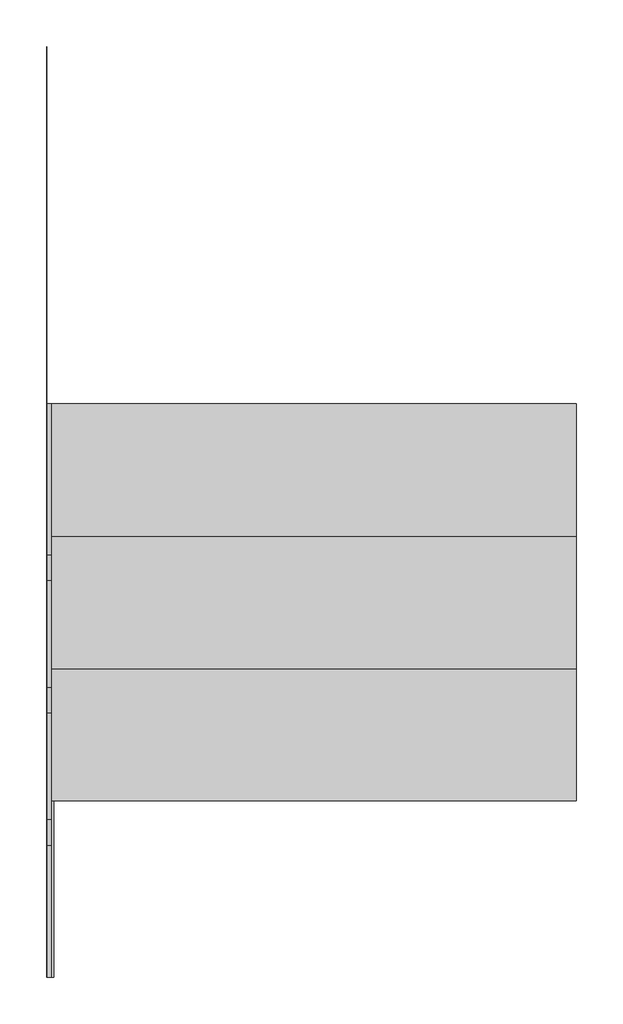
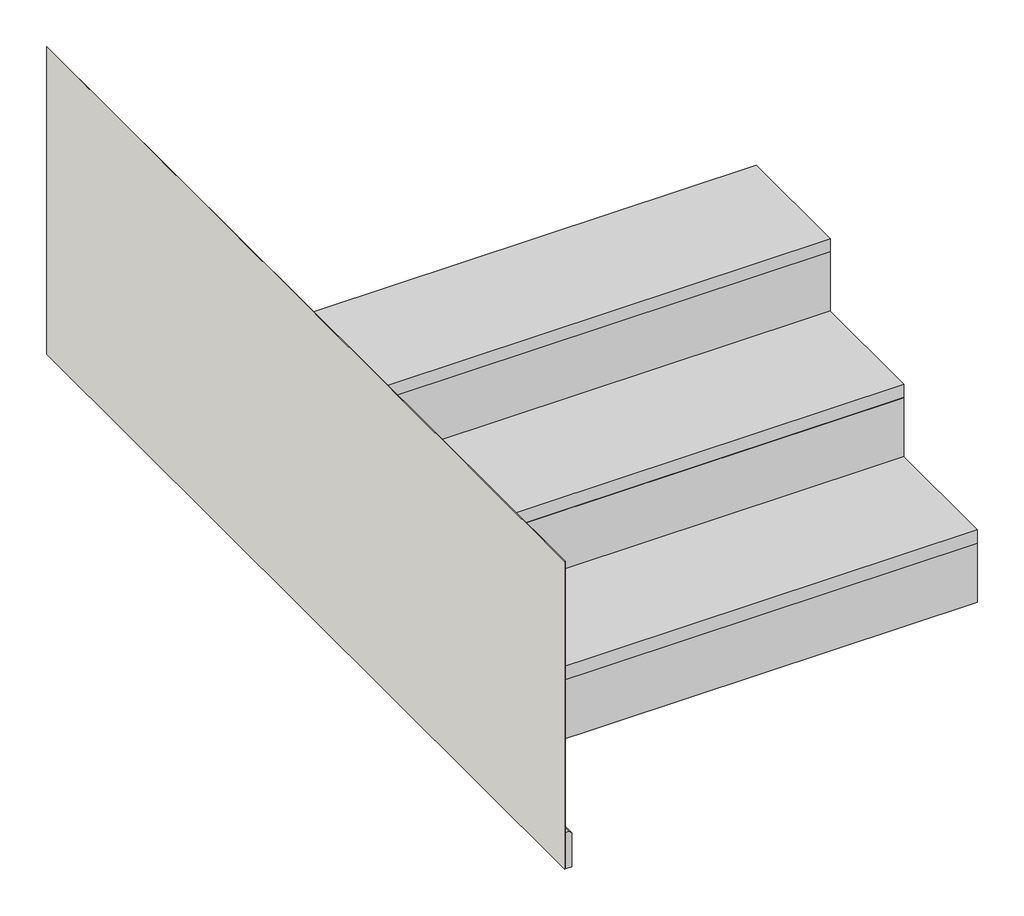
# One storey: 4 proxies, 1 stair flight, 1 wall.
"""IFC4 building model written with IfcOpenShell, lengths in millimetres."""

from ifc_helpers import new_model, si_unit, frame, origin, place, context, project, spatial, polyline, outline, extrude, faceted_brep, transform, mapped, element, save
from components import generic_models_5bab8272

model = new_model("IFC4")

# Units and contexts
model_context = context("Model", 3, world=origin())
ifc_project = project(units=[si_unit("LENGTHUNIT", "METRE", prefix="MILLI")], contexts=[model_context])

# Site, building, storey
site = spatial("IfcSite", under=ifc_project)
building = spatial("IfcBuilding", under=site)
storey = spatial("IfcBuildingStorey", under=building, Name="- EXAGRES_Catalogo ESCALERAS", Elevation=10000.0)

# Proxies
placement = place(None, origin())
element("IfcBuildingElementProxy", 1, Name="Exagres_Milan_Arena_Skirting_9x60", ObjectType="Exagres_Milan_Arena_Skirting_9x60", at=placement, inside=storey, context=model_context, shape_type="SweptSolid", body=[
    extrude(outline(polyline([(10090.0, -451.9029047), (10000.0, -451.9029047), (10000.0, -436.9029047), (10085.0, -436.9029047), (10090.0, -441.9029047), (10090.0, -451.9029047)])), frame((0.0, -15678.6587674, 0.0), z_axis=(0.0, 1.0, 0.0), x_axis=(0.0, 0.0, 1.0)), (0.0, 0.0, 1.0), 400.0),
])
generic_models_shape = generic_models_5bab8272(model_context)
element("IfcBuildingElementProxy", 2, Name="EXAGRES - Step Skirting Straight 42.3x17.5 : Exagres_Milan_Arena_Left", ObjectType="EXAGRES - Step Skirting Straight 42.3x17.5 : Exagres_Milan_Arena_Left", at=placement, inside=storey, context=model_context, shape_type="MappedRepresentation", body=[
    mapped(generic_models_shape, transform((-451.9029047, -15278.6587674, 10180.0), x_axis=(0.0, 1.0, 0.0), y_axis=(0.0, 0.0, 1.0), z_axis=(1.0, 0.0, 0.0))),
])
element("IfcBuildingElementProxy", 3, Name="EXAGRES - Step Skirting Straight 42.3x17.5 : Exagres_Milan_Arena_Left", ObjectType="EXAGRES - Step Skirting Straight 42.3x17.5 : Exagres_Milan_Arena_Left", at=placement, inside=storey, context=model_context, shape_type="MappedRepresentation", body=[
    mapped(generic_models_shape, transform((-451.9029047, -14978.6587674, 10360.0), x_axis=(0.0, 1.0, 0.0), y_axis=(0.0, 0.0, 1.0), z_axis=(1.0, 0.0, 0.0))),
])
element("IfcBuildingElementProxy", 4, Name="EXAGRES - Step Skirting Straight 42.3x17.5 : Exagres_Milan_Arena_Left", ObjectType="EXAGRES - Step Skirting Straight 42.3x17.5 : Exagres_Milan_Arena_Left", at=placement, inside=storey, context=model_context, shape_type="MappedRepresentation", body=[
    mapped(generic_models_shape, transform((-451.9029047, -14678.6587674, 10540.0), x_axis=(0.0, 1.0, 0.0), y_axis=(0.0, 0.0, 1.0), z_axis=(1.0, 0.0, 0.0))),
])

# Stair flight
element("IfcStairFlight", 5, ObjectType="EXAGRES_Straight - Milán Arena R11+C", at=placement, inside=storey, context=model_context, shape_type="SolidModel", body=[
    faceted_brep([(-451.9029047, -14965.6587674, 10165.0), (-451.9029047, -15265.6587674, 10165.0), (748.0970953, -15265.6587674, 10165.0), (748.0970953, -14965.6587674, 10165.0), (-451.9029047, -14965.6587674, 10000.0), (-451.9029047, -15265.6587674, 10000.0), (748.0970953, -15265.6587674, 10000.0), (748.0970953, -14965.6587674, 10000.0), (-451.9029047, -14665.6587674, 10345.0), (-451.9029047, -14965.6587674, 10345.0), (748.0970953, -14965.6587674, 10345.0), (748.0970953, -14665.6587674, 10345.0), (-451.9029047, -14665.6587674, 10158.4095394), (-451.9029047, -14929.6746663, 10000.0), (748.0970953, -14929.6746663, 10000.0), (748.0970953, -14665.6587674, 10158.4095394), (-451.9029047, -14378.6587674, 10330.6095394), (748.0970953, -14378.6587674, 10330.6095394), (-451.9029047, -14378.6587674, 10525.0), (-451.9029047, -14665.6587674, 10525.0), (748.0970953, -14665.6587674, 10525.0), (748.0970953, -14378.6587674, 10525.0)], [[[0, 1, 2, 3]], [[1, 0, 4, 5]], [[2, 1, 5, 6]], [[3, 2, 6, 7]], [[8, 9, 10, 11]], [[4, 0, 9, 8, 12, 13]], [[0, 3, 10, 9]], [[3, 7, 14, 15, 11, 10]], [[5, 4, 13, 14, 7, 6]], [[14, 13, 12, 16, 17, 15]], [[18, 19, 20, 21]], [[19, 18, 16, 12, 8]], [[8, 11, 20, 19]], [[21, 20, 11, 15, 17]], [[18, 21, 17, 16]]]),
    extrude(outline(polyline([(-14965.6587674, 10165.0), (-15260.7492185, 10165.0), (-15260.7492185, 10168.0), (-15265.6587674, 10168.0), (-15265.6587674, 10161.0), (-15266.6587674, 10161.0), (-15266.6587674, 10155.0), (-15265.6587674, 10155.0), (-15265.6587674, 10147.0), (-15278.6587674, 10147.0), (-15278.6587674, 10180.0), (-14965.6587674, 10180.0), (-14965.6587674, 10165.0)])), frame((-451.9029047, 0.0, 0.0), z_axis=(1.0, 0.0, 0.0), x_axis=(0.0, 1.0, 0.0)), (0.0, 0.0, 1.0), 1200.0),
    extrude(outline(polyline([(748.0970953, -15265.6587674), (748.0970953, -15278.6587674), (-451.9029047, -15278.6587674), (-451.9029047, -15265.6587674), (748.0970953, -15265.6587674)])), frame((0.0, 0.0, 10000.0), z_axis=(0.0, 0.0, 1.0), x_axis=(1.0, 0.0, 0.0)), (0.0, 0.0, 1.0), 147.0),
    extrude(outline(polyline([(748.0970953, -14965.6587674), (748.0970953, -14978.6587674), (-451.9029047, -14978.6587674), (-451.9029047, -14965.6587674), (748.0970953, -14965.6587674)])), frame((0.0, 0.0, 10180.0), z_axis=(0.0, 0.0, 1.0), x_axis=(1.0, 0.0, 0.0)), (0.0, 0.0, 1.0), 147.0),
    extrude(outline(polyline([(-14665.6587674, 10345.0), (-14960.7492185, 10345.0), (-14960.7492185, 10348.0), (-14965.6587674, 10348.0), (-14965.6587674, 10341.0), (-14966.6587674, 10341.0), (-14966.6587674, 10335.0), (-14965.6587674, 10335.0), (-14965.6587674, 10327.0), (-14978.6587674, 10327.0), (-14978.6587674, 10360.0), (-14665.6587674, 10360.0), (-14665.6587674, 10345.0)])), frame((-451.9029047, 0.0, 0.0), z_axis=(1.0, 0.0, 0.0), x_axis=(0.0, 1.0, 0.0)), (0.0, 0.0, 1.0), 1200.0),
    extrude(outline(polyline([(748.0970953, -14665.6587674), (748.0970953, -14678.6587674), (-451.9029047, -14678.6587674), (-451.9029047, -14665.6587674), (748.0970953, -14665.6587674)])), frame((0.0, 0.0, 10360.0), z_axis=(0.0, 0.0, 1.0), x_axis=(1.0, 0.0, 0.0)), (0.0, 0.0, 1.0), 147.0),
    extrude(outline(polyline([(-14378.6587674, 10525.0), (-14660.7492185, 10525.0), (-14660.7492185, 10528.0), (-14665.6587674, 10528.0), (-14665.6587674, 10521.0), (-14666.6587674, 10521.0), (-14666.6587674, 10515.0), (-14665.6587674, 10515.0), (-14665.6587674, 10507.0), (-14678.6587674, 10507.0), (-14678.6587674, 10540.0), (-14378.6587674, 10540.0), (-14378.6587674, 10525.0)])), frame((-451.9029047, 0.0, 0.0), z_axis=(1.0, 0.0, 0.0), x_axis=(0.0, 1.0, 0.0)), (0.0, 0.0, 1.0), 1200.0),
])

# Wall
element("IfcWall", 6, ObjectType="Muro básico:muro", at=placement, inside=storey, context=model_context, shape_type="SweptSolid", body=[
    extrude(outline(polyline([(-452.9029047, -15678.6587674), (-452.9029047, -13568.6587674), (-451.9029047, -13568.6587674), (-451.9029047, -15678.6587674), (-452.9029047, -15678.6587674)])), frame((0.0, 0.0, 10000.0), z_axis=(0.0, 0.0, 1.0), x_axis=(1.0, 0.0, 0.0)), (0.0, 0.0, 1.0), 764.3585777),
])

save(model, "model.ifc")
